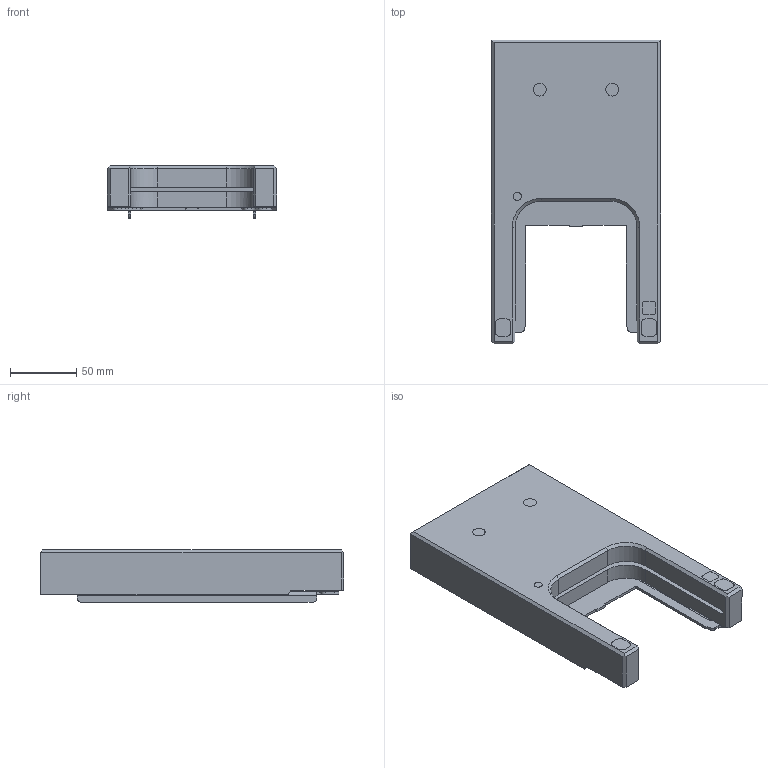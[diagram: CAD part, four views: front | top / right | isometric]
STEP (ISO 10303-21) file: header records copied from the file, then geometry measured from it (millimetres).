
FILE_DESCRIPTION(/* description */ (''),/* implementation_level */ '2;1');
FILE_NAME(/* name */ 'LA-2238-0025#-B.stp',/* time_stamp */ '2012-09-07T09:50:40+01:00',/* author */ (''),/* organization */ (''),/* preprocessor_version */ 'ST-DEVELOPER v11',/* originating_system */ 'SIEMENS PLM Software NX 7.5',/* authorisation */ '');
FILE_SCHEMA (('AUTOMOTIVE_DESIGN { 1 0 10303 214 1 1 1 1 }'));
Length unit declared in the file: millimetre
Products named in the file (1): rt13371Ayuz1
Bounding box: 128 x 229.7 x 39.5 mm (x, y, z)
Volume: 624996.9 mm3; surface area: 102864.9 mm2
Topology: 1 solids, 1 shells, 120 faces, 351 edges, 241 vertices
Faces by surface type: plane 78, cylinder 30, bspline 10, cone 2
Entity records: 4950 total; most frequent: CARTESIAN_POINT 1079, ORIENTED_EDGE 702, DIRECTION 507, EDGE_CURVE 351, VERTEX_POINT 241, LINE 195, VECTOR 195, AXIS2_PLACEMENT_3D 156
